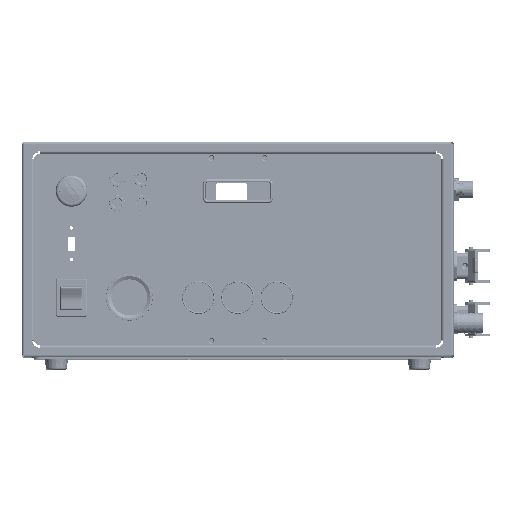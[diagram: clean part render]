
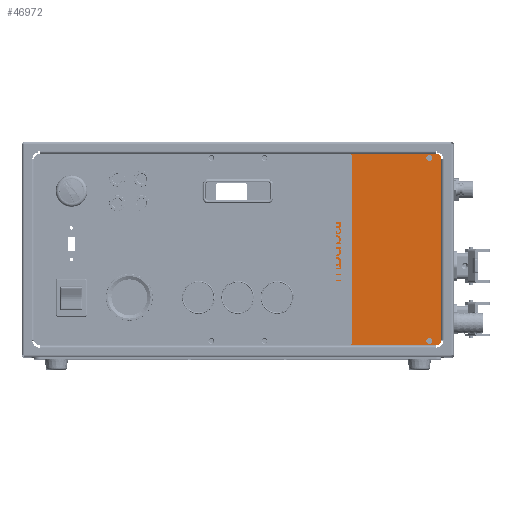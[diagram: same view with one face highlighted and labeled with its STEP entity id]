
A CAD part, top view. The second image highlights one B-rep face of the part: STEP entity #46972.
In plain terms, the highlighted planar face has unit normal (0, 0, 1).
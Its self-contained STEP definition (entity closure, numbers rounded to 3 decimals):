
#1902 = DIRECTION ( 'NONE',  ( 0., 0., 1. ) ) ;
#2990 = EDGE_CURVE ( 'NONE', #16634, #95858, #7506, .T. ) ;
#3948 = CARTESIAN_POINT ( 'NONE',  ( 186.5, 90., 0. ) ) ;
#4899 = EDGE_CURVE ( 'NONE', #14145, #98672, #63723, .T. ) ;
#5773 = DIRECTION ( 'NONE',  ( 1., 0., 0. ) ) ;
#5937 = AXIS2_PLACEMENT_3D ( 'NONE', #142508, #83970, #128589 ) ;
#6920 = DIRECTION ( 'NONE',  ( 0., 0., 1. ) ) ;
#7506 = CIRCLE ( 'NONE', #30880, 2.75 ) ;
#8925 = DIRECTION ( 'NONE',  ( 0., 1., 0. ) ) ;
#11077 = CARTESIAN_POINT ( 'NONE',  ( 191.5, -90., 0. ) ) ;
#11757 = VERTEX_POINT ( 'NONE', #3948 ) ;
#13430 = DIRECTION ( 'NONE',  ( 0., 0., 1. ) ) ;
#13694 = ORIENTED_EDGE ( 'NONE', *, *, #84870, .F. ) ;
#14145 = VERTEX_POINT ( 'NONE', #33237 ) ;
#16483 = VERTEX_POINT ( 'NONE', #74903 ) ;
#16634 = VERTEX_POINT ( 'NONE', #33872 ) ;
#17937 = DIRECTION ( 'NONE',  ( 1., 0., 0. ) ) ;
#20603 = CARTESIAN_POINT ( 'NONE',  ( 92.5, 90., 0. ) ) ;
#20788 = CARTESIAN_POINT ( 'NONE',  ( 177.25, -86., 0. ) ) ;
#20818 = DIRECTION ( 'NONE',  ( 0., 0., 1. ) ) ;
#21165 = DIRECTION ( 'NONE',  ( 1., 0., 0. ) ) ;
#22636 = CARTESIAN_POINT ( 'NONE',  ( 92.5, 90., 0. ) ) ;
#22997 = ORIENTED_EDGE ( 'NONE', *, *, #67751, .T. ) ;
#23520 = VERTEX_POINT ( 'NONE', #53966 ) ;
#25281 = ORIENTED_EDGE ( 'NONE', *, *, #68714, .T. ) ;
#25411 = VECTOR ( 'NONE', #21165, 1000. ) ;
#26271 = DIRECTION ( 'NONE',  ( -1., 0., 0. ) ) ;
#26358 = CARTESIAN_POINT ( 'NONE',  ( 99.75, 86., 0. ) ) ;
#27125 = ORIENTED_EDGE ( 'NONE', *, *, #130993, .T. ) ;
#29668 = VECTOR ( 'NONE', #26271, 1000. ) ;
#30880 = AXIS2_PLACEMENT_3D ( 'NONE', #62054, #117754, #72301 ) ;
#30971 = VERTEX_POINT ( 'NONE', #144832 ) ;
#33223 = CIRCLE ( 'NONE', #54217, 2.75 ) ;
#33237 = CARTESIAN_POINT ( 'NONE',  ( 92.5, -90., 0. ) ) ;
#33372 = VECTOR ( 'NONE', #108434, 1000. ) ;
#33752 = DIRECTION ( 'NONE',  ( 0., 0., 1. ) ) ;
#33872 = CARTESIAN_POINT ( 'NONE',  ( 182.75, 86., 0. ) ) ;
#33967 = CIRCLE ( 'NONE', #115829, 5. ) ;
#36552 = VERTEX_POINT ( 'NONE', #59930 ) ;
#42156 = FACE_BOUND ( 'NONE', #63965, .T. ) ;
#44305 = FACE_OUTER_BOUND ( 'NONE', #104856, .T. ) ;
#46162 = EDGE_LOOP ( 'NONE', ( #119249, #47665 ) ) ;
#46972 = ADVANCED_FACE ( 'NONE', ( #142451, #42156, #86771, #144606, #44305 ), #120506, .F. ) ;
#47045 = DIRECTION ( 'NONE',  ( -1., 0., 0. ) ) ;
#47261 = DIRECTION ( 'NONE',  ( 1., 0., 0. ) ) ;
#47665 = ORIENTED_EDGE ( 'NONE', *, *, #108872, .F. ) ;
#53868 = CIRCLE ( 'NONE', #100688, 2.75 ) ;
#53966 = CARTESIAN_POINT ( 'NONE',  ( 186.5, -90., 0. ) ) ;
#54217 = AXIS2_PLACEMENT_3D ( 'NONE', #70658, #1902, #47261 ) ;
#55159 = DIRECTION ( 'NONE',  ( 1., 0., 0. ) ) ;
#56245 = AXIS2_PLACEMENT_3D ( 'NONE', #88650, #33752, #133293 ) ;
#56468 = CARTESIAN_POINT ( 'NONE',  ( 182.75, -86., 0. ) ) ;
#56685 = EDGE_CURVE ( 'NONE', #91385, #16483, #78173, .T. ) ;
#58014 = VERTEX_POINT ( 'NONE', #56468 ) ;
#58382 = ORIENTED_EDGE ( 'NONE', *, *, #79079, .F. ) ;
#59930 = CARTESIAN_POINT ( 'NONE',  ( 191.5, 85., 0. ) ) ;
#61343 = CARTESIAN_POINT ( 'NONE',  ( 102.5, -86., 0. ) ) ;
#62054 = CARTESIAN_POINT ( 'NONE',  ( 180., 86., 0. ) ) ;
#62499 = EDGE_CURVE ( 'NONE', #82142, #30971, #33223, .T. ) ;
#63723 = LINE ( 'NONE', #20603, #33372 ) ;
#63764 = DIRECTION ( 'NONE',  ( -1., 0., 0. ) ) ;
#63965 = EDGE_LOOP ( 'NONE', ( #92292, #13694 ) ) ;
#64459 = CARTESIAN_POINT ( 'NONE',  ( 191.5, -85., 0. ) ) ;
#64491 = CARTESIAN_POINT ( 'NONE',  ( 186.5, 85., 0. ) ) ;
#64811 = CIRCLE ( 'NONE', #113981, 5. ) ;
#64812 = DIRECTION ( 'NONE',  ( 0., 0., -1. ) ) ;
#65049 = ORIENTED_EDGE ( 'NONE', *, *, #78576, .T. ) ;
#67751 = EDGE_CURVE ( 'NONE', #11757, #98672, #136059, .T. ) ;
#68636 = CARTESIAN_POINT ( 'NONE',  ( -191.5, -90., 0. ) ) ;
#68714 = EDGE_CURVE ( 'NONE', #14145, #23520, #99446, .T. ) ;
#68759 = CIRCLE ( 'NONE', #108610, 2.75 ) ;
#70658 = CARTESIAN_POINT ( 'NONE',  ( 102.5, -86., 0. ) ) ;
#71694 = CARTESIAN_POINT ( 'NONE',  ( 105.25, -86., 0. ) ) ;
#72301 = DIRECTION ( 'NONE',  ( 1., 0., 0. ) ) ;
#74903 = CARTESIAN_POINT ( 'NONE',  ( 105.25, 86., 0. ) ) ;
#78173 = CIRCLE ( 'NONE', #5937, 2.75 ) ;
#78576 = EDGE_CURVE ( 'NONE', #36552, #11757, #64811, .T. ) ;
#79079 = EDGE_CURVE ( 'NONE', #95858, #16634, #113776, .T. ) ;
#79943 = EDGE_CURVE ( 'NONE', #58014, #91654, #105281, .T. ) ;
#82142 = VERTEX_POINT ( 'NONE', #71694 ) ;
#82912 = EDGE_CURVE ( 'NONE', #92030, #36552, #109226, .T. ) ;
#83970 = DIRECTION ( 'NONE',  ( 0., 0., 1. ) ) ;
#84616 = CARTESIAN_POINT ( 'NONE',  ( 177.25, 86., 0. ) ) ;
#84870 = EDGE_CURVE ( 'NONE', #91654, #58014, #68759, .T. ) ;
#84887 = AXIS2_PLACEMENT_3D ( 'NONE', #131446, #64812, #143185 ) ;
#86771 = FACE_BOUND ( 'NONE', #98735, .T. ) ;
#88650 = CARTESIAN_POINT ( 'NONE',  ( 180., -86., 0. ) ) ;
#91173 = CIRCLE ( 'NONE', #95776, 2.75 ) ;
#91385 = VERTEX_POINT ( 'NONE', #26358 ) ;
#91654 = VERTEX_POINT ( 'NONE', #20788 ) ;
#92030 = VERTEX_POINT ( 'NONE', #64459 ) ;
#92292 = ORIENTED_EDGE ( 'NONE', *, *, #79943, .F. ) ;
#95776 = AXIS2_PLACEMENT_3D ( 'NONE', #118193, #6920, #17937 ) ;
#95858 = VERTEX_POINT ( 'NONE', #84616 ) ;
#98672 = VERTEX_POINT ( 'NONE', #22636 ) ;
#98735 = EDGE_LOOP ( 'NONE', ( #144467, #138459 ) ) ;
#99446 = LINE ( 'NONE', #68636, #25411 ) ;
#99466 = DIRECTION ( 'NONE',  ( 0., 0., 1. ) ) ;
#100688 = AXIS2_PLACEMENT_3D ( 'NONE', #61343, #106029, #5773 ) ;
#103881 = CARTESIAN_POINT ( 'NONE',  ( -191.5, 90., 0. ) ) ;
#104856 = EDGE_LOOP ( 'NONE', ( #22997, #139168, #25281, #27125, #142573, #65049 ) ) ;
#105281 = CIRCLE ( 'NONE', #56245, 2.75 ) ;
#106029 = DIRECTION ( 'NONE',  ( 0., 0., 1. ) ) ;
#106762 = AXIS2_PLACEMENT_3D ( 'NONE', #111899, #99466, #121434 ) ;
#108434 = DIRECTION ( 'NONE',  ( 0., 1., 0. ) ) ;
#108610 = AXIS2_PLACEMENT_3D ( 'NONE', #121065, #20818, #55159 ) ;
#108872 = EDGE_CURVE ( 'NONE', #30971, #82142, #53868, .T. ) ;
#109226 = LINE ( 'NONE', #11077, #138894 ) ;
#111899 = CARTESIAN_POINT ( 'NONE',  ( 180., 86., 0. ) ) ;
#112065 = EDGE_LOOP ( 'NONE', ( #113707, #58382 ) ) ;
#113707 = ORIENTED_EDGE ( 'NONE', *, *, #2990, .F. ) ;
#113776 = CIRCLE ( 'NONE', #106762, 2.75 ) ;
#113981 = AXIS2_PLACEMENT_3D ( 'NONE', #64491, #142854, #63764 ) ;
#115829 = AXIS2_PLACEMENT_3D ( 'NONE', #136351, #13430, #47045 ) ;
#117754 = DIRECTION ( 'NONE',  ( 0., 0., 1. ) ) ;
#118193 = CARTESIAN_POINT ( 'NONE',  ( 102.5, 86., 0. ) ) ;
#119249 = ORIENTED_EDGE ( 'NONE', *, *, #62499, .F. ) ;
#120506 = PLANE ( 'NONE',  #84887 ) ;
#121065 = CARTESIAN_POINT ( 'NONE',  ( 180., -86., 0. ) ) ;
#121434 = DIRECTION ( 'NONE',  ( 1., 0., 0. ) ) ;
#128589 = DIRECTION ( 'NONE',  ( 1., 0., 0. ) ) ;
#130993 = EDGE_CURVE ( 'NONE', #23520, #92030, #33967, .T. ) ;
#131446 = CARTESIAN_POINT ( 'NONE',  ( 0., 0., 0. ) ) ;
#133293 = DIRECTION ( 'NONE',  ( 1., 0., 0. ) ) ;
#136059 = LINE ( 'NONE', #103881, #29668 ) ;
#136351 = CARTESIAN_POINT ( 'NONE',  ( 186.5, -85., 0. ) ) ;
#136356 = EDGE_CURVE ( 'NONE', #16483, #91385, #91173, .T. ) ;
#138459 = ORIENTED_EDGE ( 'NONE', *, *, #56685, .F. ) ;
#138894 = VECTOR ( 'NONE', #8925, 1000. ) ;
#139168 = ORIENTED_EDGE ( 'NONE', *, *, #4899, .F. ) ;
#142451 = FACE_BOUND ( 'NONE', #112065, .T. ) ;
#142508 = CARTESIAN_POINT ( 'NONE',  ( 102.5, 86., 0. ) ) ;
#142573 = ORIENTED_EDGE ( 'NONE', *, *, #82912, .T. ) ;
#142854 = DIRECTION ( 'NONE',  ( 0., 0., 1. ) ) ;
#143185 = DIRECTION ( 'NONE',  ( -1., 0., 0. ) ) ;
#144467 = ORIENTED_EDGE ( 'NONE', *, *, #136356, .F. ) ;
#144606 = FACE_BOUND ( 'NONE', #46162, .T. ) ;
#144832 = CARTESIAN_POINT ( 'NONE',  ( 99.75, -86., 0. ) ) ;
